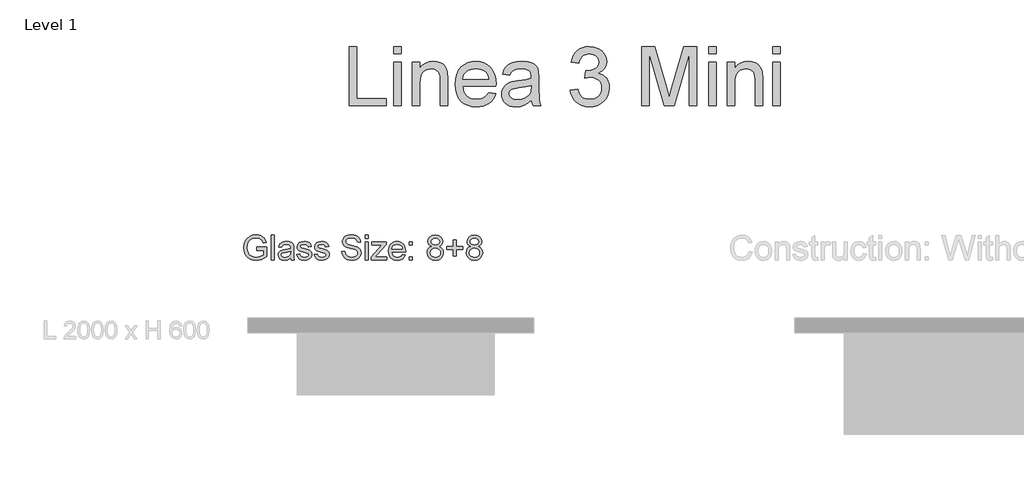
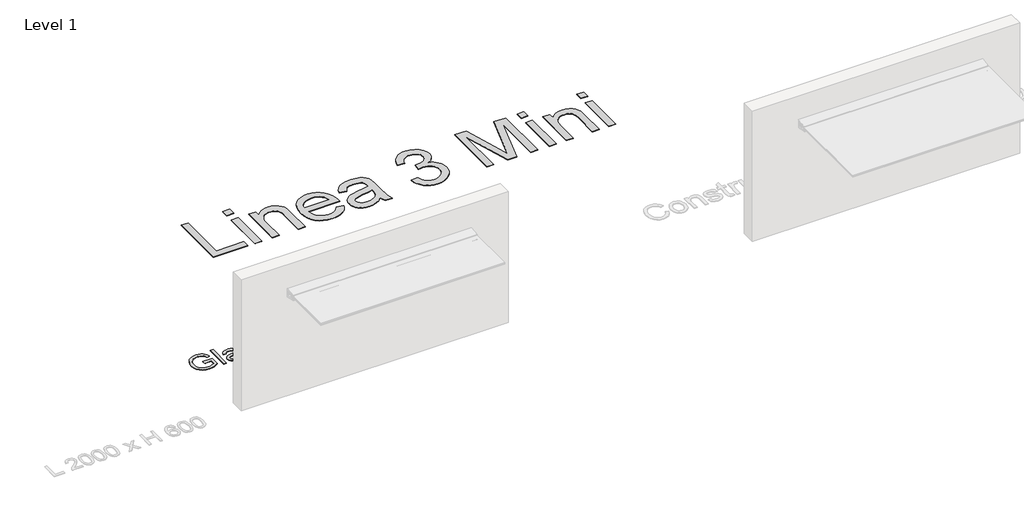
# One storey, part 5 of 6: 2 proxies.
"""IFC4 building model written with IfcOpenShell, lengths in millimetres."""

from ifc_helpers import new_model, si_unit, origin, origin_with_axes, place, context, project, spatial, polyline, outline, extrude, element, save

model = new_model("IFC4")

# Units and contexts
model_context = context("Model", 3, world=origin())
ifc_project = project(units=[si_unit("LENGTHUNIT", "METRE", prefix="MILLI")], contexts=[model_context])

# Site, building, storey
site = spatial("IfcSite", under=ifc_project)
building = spatial("IfcBuilding", under=site)
storey = spatial("IfcBuildingStorey", under=building, Name="Level 1", Elevation=0.0)

# Proxies
placement = place(None, origin())
element("IfcBuildingElementProxy", 1, Name="600mm Arial", ObjectType="600mm Arial", at=placement, inside=storey, context=model_context, shape_type="SweptSolid", body=[
    extrude(outline(polyline([(11563.2291766, 2864.8889799), (11563.2291766, 3467.6268408), (11638.5714092, 3467.6268408), (11638.5714092, 2940.2312125), (11939.9403397, 2940.2312125), (11939.9403397, 2864.8889799), (11563.2291766, 2864.8889799)])), origin_with_axes(), (0.0, 0.0, 1.0), 5.0),
    extrude(outline(polyline([(12015.2825723, 2864.8889799), (12015.2825723, 3307.5245965), (12090.6248049, 3307.5245965), (12090.6248049, 2864.8889799), (12015.2825723, 2864.8889799)])), origin_with_axes(), (0.0, 0.0, 1.0), 5.0),
    extrude(outline(polyline([(12015.2825723, 3392.2846082), (12015.2825723, 3467.6268408), (12090.6248049, 3467.6268408), (12090.6248049, 3392.2846082), (12015.2825723, 3392.2846082)])), origin_with_axes(), (0.0, 0.0, 1.0), 5.0),
    extrude(outline(polyline([(12203.6381538, 2864.8889799), (12203.6381538, 3307.5245965), (12278.9803864, 3307.5245965), (12278.9803864, 3245.7204213), (12305.1551904, 3276.8800263), (12336.5907069, 3299.136887), (12373.2869359, 3312.4910034), (12415.2438774, 3316.9423756), (12452.3815649, 3313.3555261), (12486.3922553, 3302.5949777), (12514.7559571, 3286.0034998), (12534.9526787, 3264.9238614), (12548.656283, 3239.4112451), (12557.5406332, 3209.520833), (12561.5137587, 3136.6801979), (12561.5137587, 2864.8889799), (12486.1715261, 2864.8889799), (12486.1715261, 3126.5266549), (12484.0010223, 3165.4853581), (12477.489511, 3193.1868724), (12465.4781639, 3213.034106), (12446.8081526, 3228.4299675), (12422.8774288, 3238.3075991), (12395.0839441, 3241.6001429), (12372.2062825, 3239.7515359), (12350.9564988, 3234.2057148), (12331.3345929, 3224.9626797), (12313.3405648, 3212.0224305), (12298.3079868, 3193.9134393), (12287.570431, 3169.1641781), (12281.1278976, 3137.7746469), (12278.9803864, 3099.7448456), (12278.9803864, 2864.8889799), (12203.6381538, 2864.8889799)])), origin_with_axes(), (0.0, 0.0, 1.0), 5.0),
    extrude(outline(polyline([(12975.0131213, 2996.737887), (13048.8838259, 2987.3201079), (13037.557659, 2957.7331984), (13022.2675636, 2931.659562), (13003.0135397, 2909.0991987), (12979.7955872, 2890.0521084), (12952.8528296, 2874.9229613), (12922.4243901, 2864.1164277), (12888.5102687, 2857.6325075), (12851.1104653, 2855.4712008), (12804.3618608, 2859.2006045), (12762.7084219, 2870.3888157), (12726.1501486, 2889.0358343), (12694.687041, 2915.1416604), (12669.3859568, 2947.979727), (12651.3137538, 2986.8234672), (12640.4704319, 3031.6728809), (12636.8559913, 3082.5279682), (12640.5072201, 3135.1075024), (12651.4609065, 3181.4514367), (12669.7170506, 3221.5597713), (12695.2756522, 3255.432506), (12726.6559864, 3282.3430739), (12762.3773281, 3301.5649082), (12802.4396774, 3313.0980087), (12846.8430342, 3316.9423756), (12889.8162497, 3313.1072058), (12928.678384, 3301.6016964), (12963.429437, 3282.4258474), (12994.0694087, 3255.5796588), (13019.0807858, 3221.7805005), (13036.9460552, 3181.7457423), (13047.6652168, 3135.4753844), (13051.2382707, 3082.9694266), (13050.7968123, 3062.6623405), (12712.198224, 3062.6623405), (12716.5622241, 3032.5971844), (12725.2396407, 3006.2660306), (12738.2304736, 2983.6688791), (12755.534723, 2964.8057298), (12776.1958955, 2949.9341001), (12799.2574981, 2939.3115075), (12824.7195307, 2932.9379519), (12852.5819933, 2930.8134334), (12892.6811308, 2934.7497708), (12926.4526979, 2946.5587828), (12953.8966948, 2966.9762335), (12975.0131213, 2996.737887)]), holes=[polyline([(12712.198224, 3138.0045731), (12975.8960381, 3138.0045731), (12965.7057068, 3177.809405), (12956.9409183, 3193.4627839), (12945.7297145, 3206.2834714), (12925.1835051, 3221.7345152), (12901.8046043, 3232.7709751), (12875.5930121, 3239.392851), (12846.5487286, 3241.6001429), (12820.0566264, 3239.8389079), (12795.7626192, 3234.5552027), (12773.6667068, 3225.7490275), (12753.7688894, 3213.4203821), (12737.0716454, 3198.1394837), (12724.5774531, 3180.4765494), (12716.2863126, 3160.4315792), (12712.198224, 3138.0045731)])]), origin_with_axes(), (0.0, 0.0, 1.0), 5.0),
    extrude(outline(polyline([(13409.1138756, 2921.3956543), (13373.1166224, 2890.5303549), (13336.0525114, 2870.3336334), (13297.075414, 2859.186809), (13255.3392016, 2855.4712008), (13221.7929622, 2857.7060839), (13192.3761982, 2864.4107333), (13167.0889095, 2875.5851489), (13145.9310963, 2891.2293307), (13129.2246552, 2910.3499974), (13117.2914829, 2931.9538676), (13110.1315796, 2956.0409412), (13107.7449452, 2982.6112183), (13111.3501887, 3013.8443997), (13122.1659194, 3042.2081016), (13138.8493679, 3066.4883132), (13160.0577649, 3085.4710242), (13184.9817701, 3099.818422), (13212.812043, 3110.1926943), (13278.0007325, 3121.5234597), (13355.0352223, 3133.4428364), (13408.6724172, 3147.4223522), (13409.1138756, 3164.1977712), (13403.9267395, 3197.8221855), (13397.4428193, 3210.2749911), (13388.3653311, 3219.8215288), (13372.675164, 3229.3496725), (13353.5636943, 3236.1554894), (13305.0768474, 3241.6001429), (13260.195244, 3237.9765053), (13228.851698, 3227.1055923), (13207.4777541, 3207.0008413), (13192.5049569, 3175.6756894), (13117.1627242, 3185.0934685), (13130.2409292, 3226.2962519), (13149.757069, 3258.6698675), (13177.5321597, 3283.4283258), (13215.387217, 3301.7856374), (13261.685166, 3313.153191), (13314.7889321, 3316.9423756), (13365.7221943, 3313.5946494), (13406.0972433, 3303.5514709), (13436.5394784, 3288.449915), (13457.674299, 3269.9270566), (13471.690603, 3247.0264024), (13480.7772883, 3218.7914592), (13484.4561082, 3152.8670057), (13484.4561082, 3059.1306733), (13488.282081, 2928.2382595), (13493.9474637, 2895.883038), (13503.2916664, 2864.8889799), (13427.9494338, 2864.8889799), (13415.8829043, 2891.0821779), (13409.1138756, 2921.3956543)]), holes=[polyline([(13409.1138756, 3072.0801196), (13358.4933131, 3059.5353435), (13287.5656644, 3048.9771303), (13222.7448569, 3036.763448), (13205.8774674, 3028.4125267), (13193.3878736, 3016.8978203), (13185.6623517, 3003.1022455), (13183.0871778, 2987.9087191), (13188.6973782, 2965.5047056), (13205.5279795, 2947.147394), (13233.2110996, 2934.8969236), (13271.3788566, 2930.8134334), (13311.8458761, 2935.3199879), (13347.604006, 2948.8396512), (13376.5931072, 2968.7604612), (13396.7530406, 2992.4704558), (13405.6925731, 3016.8978203), (13408.6724172, 3050.7429638), (13409.1138756, 3072.0801196)])]), origin_with_axes(), (0.0, 0.0, 1.0), 5.0),
    extrude(outline(polyline([(13804.6605968, 3024.9912242), (13880.0028294, 3034.4090033), (13896.8702189, 2987.0625905), (13908.2423711, 2969.1559344), (13921.5734949, 2955.0936451), (13937.167093, 2944.4710525), (13955.326668, 2936.8834863), (13976.0522199, 2932.3309467), (13999.3437487, 2930.8134334), (14026.6405927, 2932.9011637), (14050.9943808, 2939.1643547), (14072.4051129, 2949.6030063), (14090.8727891, 2964.2171186), (14105.7444187, 2981.9122426), (14116.3670113, 3001.5939293), (14122.7405669, 3023.2621788), (14124.8650854, 3046.9169911), (14122.758961, 3069.4451648), (14116.4405877, 3089.9407904), (14105.9099656, 3108.4038681), (14091.1670947, 3124.8343977), (14073.1776651, 3138.3218713), (14052.9073672, 3147.9557811), (14030.3562009, 3153.7361269), (14005.5241662, 3155.6629089), (13981.7222011, 3153.6027697), (13952.6963117, 3147.4223522), (13961.0840212, 3222.7645848), (13973.1505506, 3221.881668), (14018.2896714, 3227.2895333), (14058.6463263, 3243.5131293), (14075.2561984, 3255.7819939), (14087.1203927, 3270.9571262), (14094.2389093, 3289.0385262), (14096.6117482, 3310.026194), (14094.8918999, 3327.063729), (14089.7323549, 3342.5653565), (14081.1331133, 3356.5310768), (14069.094175, 3368.9608897), (14054.342107, 3379.1650165), (14037.6034762, 3386.4536785), (13998.1665263, 3392.2846082), (13977.5099523, 3390.8130802), (13958.656, 3386.3984962), (13941.6046695, 3379.0408563), (13926.3559608, 3368.7401605), (13913.286953, 3355.4964087), (13902.7747249, 3339.3096009), (13894.8192768, 3320.1797371), (13889.4206085, 3298.1068174), (13814.0783759, 3307.5245965), (13823.0087113, 3343.4942586), (13836.2616602, 3375.1780954), (13853.8372225, 3402.576107), (13875.7353983, 3425.6882933), (13901.2664088, 3444.0364078), (13929.7404752, 3457.1422039), (13961.1575976, 3465.0056816), (13995.5177759, 3467.6268408), (14042.8825828, 3462.4580988), (14086.3846287, 3446.9518727), (14123.0624637, 3422.48772), (14149.9546375, 3390.4451982), (14166.454145, 3353.52824), (14171.9539808, 3314.440778), (14166.7300565, 3278.0204605), (14151.0582835, 3244.9846573), (14125.159391, 3216.8416847), (14089.2541083, 3195.0998588), (14114.3620545, 3187.2455782), (14136.4165801, 3176.0435714), (14155.4176851, 3161.4938385), (14171.3653696, 3143.5963794), (14183.9837221, 3122.7926526), (14192.9968309, 3099.5241164), (14198.4046963, 3073.7907708), (14200.207318, 3045.5926159), (14196.6020745, 3007.3696766), (14185.7863438, 2972.1633697), (14167.7601261, 2939.9736951), (14142.5234212, 2910.8006529), (14111.7776835, 2886.5940176), (14077.2243671, 2869.3035638), (14038.863472, 2858.9292916), (13996.6949983, 2855.4712008), (13958.5824236, 2858.4234538), (13923.8543633, 2867.2802129), (13892.5108173, 2882.0414779), (13864.5517856, 2902.707249), (13841.1085055, 2928.0635155), (13823.312214, 2956.8962669), (13811.1629111, 2989.2055031), (13804.6605968, 3024.9912242)])), origin_with_axes(), (0.0, 0.0, 1.0), 5.0),
    extrude(outline(polyline([(14529.8295857, 2864.8889799), (14529.8295857, 3467.6268408), (14659.0297424, 3467.6268408), (14782.6380928, 3042.7967128), (14807.6540685, 2954.0635755), (14834.5830305, 3050.1543527), (14955.8369361, 3467.6268408), (15085.4785512, 3467.6268408), (15085.4785512, 2864.8889799), (15010.1363186, 2864.8889799), (15010.1363186, 3392.2846082), (14858.7160894, 2864.8889799), (14756.7392003, 2864.8889799), (14605.1718183, 3392.2846082), (14605.1718183, 2864.8889799), (14529.8295857, 2864.8889799)])), origin_with_axes(), (0.0, 0.0, 1.0), 5.0),
    extrude(outline(polyline([(15207.9096792, 3392.2846082), (15207.9096792, 3467.6268408), (15283.2519118, 3467.6268408), (15283.2519118, 3392.2846082), (15207.9096792, 3392.2846082)])), origin_with_axes(), (0.0, 0.0, 1.0), 5.0),
    extrude(outline(polyline([(15207.9096792, 2864.8889799), (15207.9096792, 3307.5245965), (15283.2519118, 3307.5245965), (15283.2519118, 2864.8889799), (15207.9096792, 2864.8889799)])), origin_with_axes(), (0.0, 0.0, 1.0), 5.0),
    extrude(outline(polyline([(15396.2652608, 2864.8889799), (15396.2652608, 3307.5245965), (15471.6074934, 3307.5245965), (15471.6074934, 3245.7204213), (15497.7822973, 3276.8800263), (15529.2178138, 3299.136887), (15565.9140428, 3312.4910034), (15607.8709844, 3316.9423756), (15645.0086718, 3313.3555261), (15679.0193623, 3302.5949777), (15707.3830641, 3286.0034998), (15727.5797856, 3264.9238614), (15741.2833899, 3239.4112451), (15750.1677401, 3209.520833), (15754.1408657, 3136.6801979), (15754.1408657, 2864.8889799), (15678.7986331, 2864.8889799), (15678.7986331, 3126.5266549), (15676.6281293, 3165.4853581), (15670.116618, 3193.1868724), (15658.1052708, 3213.034106), (15639.4352596, 3228.4299675), (15615.5045358, 3238.3075991), (15587.7110511, 3241.6001429), (15564.8333895, 3239.7515359), (15543.5836057, 3234.2057148), (15523.9616998, 3224.9626797), (15505.9676717, 3212.0224305), (15490.9350937, 3193.9134393), (15480.197538, 3169.1641781), (15473.7550045, 3137.7746469), (15471.6074934, 3099.7448456), (15471.6074934, 2864.8889799), (15396.2652608, 2864.8889799)])), origin_with_axes(), (0.0, 0.0, 1.0), 5.0),
    extrude(outline(polyline([(15857.7364355, 3392.2846082), (15857.7364355, 3467.6268408), (15933.0786681, 3467.6268408), (15933.0786681, 3392.2846082), (15857.7364355, 3392.2846082)])), origin_with_axes(), (0.0, 0.0, 1.0), 5.0),
    extrude(outline(polyline([(15857.7364355, 2864.8889799), (15857.7364355, 3307.5245965), (15933.0786681, 3307.5245965), (15933.0786681, 2864.8889799), (15857.7364355, 2864.8889799)])), origin_with_axes(), (0.0, 0.0, 1.0), 5.0),
])
element("IfcBuildingElementProxy", 2, Name="600mm Arial 2", ObjectType="600mm Arial 2", at=placement, inside=storey, context=model_context, shape_type="SweptSolid", body=[
    extrude(outline(polyline([(10622.5294323, 1398.8329866), (10622.5294323, 1430.2255835), (10724.5553723, 1430.2255835), (10724.5553723, 1336.3543611), (10699.7616587, 1319.1098925), (10674.1861958, 1306.7398605), (10647.8902973, 1299.2902501), (10620.935277, 1296.8070466), (10585.7182402, 1300.7541138), (10553.8887834, 1312.5953155), (10527.447265, 1331.9167845), (10508.3940433, 1358.3046534), (10496.8747383, 1389.9578334), (10493.03497, 1425.0752356), (10496.8594099, 1460.4455566), (10508.3327296, 1493.3480025), (10526.9797483, 1520.9468164), (10552.3252849, 1540.4062411), (10583.1967156, 1551.9485387), (10618.4214167, 1555.7959712), (10644.2804553, 1553.5656866), (10667.533663, 1546.8748328), (10687.1157151, 1536.2062549), (10701.9612864, 1522.0427981), (10712.9440968, 1503.7023478), (10720.937866, 1480.5027895), (10691.9978157, 1472.3480719), (10677.6810747, 1501.3800927), (10667.2884084, 1510.7917404), (10653.2169221, 1518.1187235), (10636.4399702, 1522.8322116), (10617.9309074, 1524.4033743), (10596.2641907, 1522.7095842), (10577.7397994, 1517.6282142), (10562.4267113, 1509.7953934), (10550.3939044, 1499.8472511), (10534.2377535, 1475.6590099), (10526.8801136, 1451.961278), (10524.4275669, 1426.3628226), (10527.3782871, 1396.3421189), (10536.2304476, 1371.6403758), (10550.7158012, 1352.4338699), (10570.5661005, 1338.8988782), (10593.7963156, 1330.8744522), (10618.4214167, 1328.1996435), (10640.1647754, 1330.2153303), (10661.3716396, 1336.2623906), (10693.1627754, 1353.4608738), (10693.1627754, 1398.8329866), (10622.5294323, 1398.8329866)])), origin_with_axes(), (0.0, 0.0, 1.0), 5.0),
    extrude(outline(polyline([(10771.6442677, 1300.7311212), (10771.6442677, 1551.8718966), (10803.0368646, 1551.8718966), (10803.0368646, 1300.7311212), (10771.6442677, 1300.7311212)])), origin_with_axes(), (0.0, 0.0, 1.0), 5.0),
    extrude(outline(polyline([(10967.8479984, 1324.2755689), (10952.8491429, 1311.4150275), (10937.4057633, 1302.9997268), (10921.1653061, 1298.3552166), (10903.7752176, 1296.8070466), (10877.5406328, 1300.5318518), (10858.188507, 1311.7062674), (10846.2553348, 1328.6748244), (10842.2776108, 1349.7820539), (10843.7797956, 1362.7958795), (10848.28635, 1374.6140886), (10864.074619, 1392.6403063), (10886.0555682, 1402.9410022), (10913.2175222, 1407.6621545), (10967.6640574, 1418.4533597), (10967.8479984, 1425.4431176), (10965.6866917, 1439.4532902), (10959.2027716, 1448.6196833), (10944.7020896, 1455.4255002), (10924.4992367, 1457.6941058), (10905.7985686, 1456.1842568), (10892.7387578, 1451.6547097), (10883.8329478, 1443.2777301), (10877.5942823, 1430.2255835), (10846.2016854, 1434.1496581), (10851.6509374, 1451.3174846), (10859.7826624, 1464.806491), (10871.3556168, 1475.1225153), (10887.1285573, 1482.7713951), (10906.4193695, 1487.5078758), (10928.5459386, 1489.0867027), (10949.7681312, 1487.6918168), (10966.5910683, 1483.5071591), (10979.2753329, 1477.2148442), (10988.0815082, 1469.4969865), (10997.7077537, 1448.1904876), (10999.2405954, 1420.7219653), (10999.2405954, 1381.6651601), (11000.8347507, 1327.1266544), (11007.0887446, 1300.7311212), (10975.6961477, 1300.7311212), (10967.8479984, 1324.2755689)]), holes=[polyline([(10967.8479984, 1387.0607627), (10917.2029104, 1377.4345172), (10890.1942406, 1372.3454829), (10877.9621643, 1364.068138), (10873.6702077, 1351.9893459), (10876.0077912, 1342.6543402), (10883.0205417, 1335.0054604), (10894.5551751, 1329.9010977), (10910.4584072, 1328.1996435), (10927.3196653, 1330.0773745), (10942.2188861, 1335.7105676), (10954.2976783, 1344.0109051), (10962.6976505, 1353.8900695), (10966.4224557, 1364.068138), (10967.6640574, 1378.1702812), (10967.8479984, 1387.0607627)])]), origin_with_axes(), (0.0, 0.0, 1.0), 5.0),
    extrude(outline(polyline([(11030.6331923, 1355.6681658), (11062.0257892, 1359.5922404), (11066.9768677, 1346.1645476), (11076.557128, 1336.2930474), (11090.8278837, 1330.2229945), (11109.8504486, 1328.1996435), (11128.6430872, 1330.0543819), (11141.8561822, 1335.6185971), (11149.6736746, 1343.6813441), (11152.2795054, 1353.0316782), (11149.6583461, 1361.0331116), (11141.7948685, 1367.1338213), (11109.4825666, 1376.0856165), (11062.2097302, 1391.4446898), (11050.2459012, 1399.1625475), (11041.5776816, 1409.3789371), (11036.3123706, 1421.4424009), (11034.5572669, 1434.7014811), (11040.1981242, 1458.0926446), (11055.5878543, 1475.9655782), (11075.5454525, 1485.2545986), (11102.5541223, 1489.0867027), (11122.9869015, 1487.5461969), (11140.7525362, 1482.9246793), (11155.0386203, 1475.6743383), (11165.0327479, 1466.2473622), (11171.6546238, 1453.946308), (11175.823953, 1438.0737327), (11144.4313561, 1434.1496581), (11140.4689605, 1444.0288225), (11132.6284754, 1451.4707687), (11120.833259, 1456.1382715), (11105.006669, 1457.6941058), (11086.9804512, 1456.2072494), (11074.9629727, 1451.7466802), (11068.203141, 1445.3087453), (11065.9498638, 1437.8897917), (11069.6899974, 1428.7540555), (11081.4009076, 1421.8256113), (11108.4402343, 1415.1424217), (11154.5174542, 1400.3658282), (11166.6882168, 1393.2994282), (11175.9159235, 1383.6271974), (11181.7330576, 1371.318479), (11183.6721023, 1356.3426161), (11181.3958324, 1340.8609155), (11174.5670229, 1326.2989199), (11163.4462567, 1313.7985962), (11148.2941171, 1304.5019116), (11129.9919878, 1298.7307629), (11109.4212529, 1296.8070466), (11077.7680729, 1300.5165234), (11054.6681493, 1311.6449537), (11039.2477623, 1330.0697103), (11030.6331923, 1355.6681658)])), origin_with_axes(), (0.0, 0.0, 1.0), 5.0),
    extrude(outline(polyline([(11207.21655, 1355.6681658), (11238.6091469, 1359.5922404), (11243.5602254, 1346.1645476), (11253.1404857, 1336.2930474), (11267.4112414, 1330.2229945), (11286.4338063, 1328.1996435), (11305.2264448, 1330.0543819), (11318.4395398, 1335.6185971), (11326.2570322, 1343.6813441), (11328.862863, 1353.0316782), (11326.2417038, 1361.0331116), (11318.3782262, 1367.1338213), (11286.0659243, 1376.0856165), (11238.7930879, 1391.4446898), (11226.8292588, 1399.1625475), (11218.1610393, 1409.3789371), (11212.8957283, 1421.4424009), (11211.1406246, 1434.7014811), (11216.7814818, 1458.0926446), (11232.171212, 1475.9655782), (11252.1288102, 1485.2545986), (11279.13748, 1489.0867027), (11299.5702592, 1487.5461969), (11317.3358939, 1482.9246793), (11331.621978, 1475.6743383), (11341.6161055, 1466.2473622), (11348.2379815, 1453.946308), (11352.4073107, 1438.0737327), (11321.0147138, 1434.1496581), (11317.0523182, 1444.0288225), (11309.2118331, 1451.4707687), (11297.4166167, 1456.1382715), (11281.5900267, 1457.6941058), (11263.5638089, 1456.2072494), (11251.5463304, 1451.7466802), (11244.7864987, 1445.3087453), (11242.5332215, 1437.8897917), (11246.2733551, 1428.7540555), (11257.9842653, 1421.8256113), (11285.0235919, 1415.1424217), (11331.1008118, 1400.3658282), (11343.2715745, 1393.2994282), (11352.4992812, 1383.6271974), (11358.3164153, 1371.318479), (11360.25546, 1356.3426161), (11357.9791901, 1340.8609155), (11351.1503806, 1326.2989199), (11340.0296144, 1313.7985962), (11324.8774748, 1304.5019116), (11306.5753455, 1298.7307629), (11286.0046106, 1296.8070466), (11254.3514306, 1300.5165234), (11231.251507, 1311.6449537), (11215.83112, 1330.0697103), (11207.21655, 1355.6681658)])), origin_with_axes(), (0.0, 0.0, 1.0), 5.0),
    extrude(outline(polyline([(11485.8258476, 1387.0607627), (11517.2184446, 1387.0607627), (11520.8206224, 1369.6400174), (11527.3351994, 1355.637509), (11537.4979396, 1344.524407), (11552.0446068, 1335.7718812), (11569.8255699, 1330.0927029), (11589.6911976, 1328.1996435), (11607.1809208, 1329.6328504), (11622.4940089, 1333.9324713), (11634.902362, 1340.7382882), (11643.6778804, 1349.6900834), (11648.8972062, 1359.9677866), (11650.6369815, 1370.7513276), (11645.4253199, 1390.3410439), (11637.4852002, 1398.0895584), (11624.0881642, 1404.5964712), (11578.3788263, 1416.5832928), (11529.1746094, 1432.0649935), (11513.5472888, 1442.6262724), (11502.4725079, 1455.4255002), (11495.8736246, 1470.1867652), (11493.6739969, 1486.6341561), (11496.3947908, 1505.0205916), (11504.5571726, 1522.1654255), (11517.9465444, 1536.6967643), (11536.3483083, 1547.2427148), (11558.4365564, 1553.6576571), (11582.8853807, 1555.7959712), (11609.3728844, 1553.5580224), (11632.5494501, 1546.844176), (11651.5873433, 1535.7923877), (11665.6588296, 1520.5406133), (11674.5646396, 1502.0392146), (11678.1055038, 1481.2385535), (11646.7129069, 1481.2385535), (11640.9494223, 1499.9698784), (11628.9319438, 1513.4895417), (11610.1546336, 1521.6749161), (11584.111654, 1524.4033743), (11557.4555378, 1521.705573), (11539.1687369, 1513.6121691), (11528.5921296, 1501.7019895), (11525.0665938, 1487.5538611), (11527.5651257, 1475.4903973), (11535.0607213, 1465.7875097), (11552.7803708, 1457.111626), (11586.318946, 1448.2518013), (11641.8691273, 1432.4941891), (11659.7650535, 1421.1051757), (11672.2500487, 1407.0490178), (11679.584696, 1390.4789996), (11682.0295784, 1371.5484053), (11679.216814, 1352.1962795), (11670.7785207, 1333.9937849), (11657.059588, 1318.3281433), (11638.4049051, 1306.5865763), (11615.9717676, 1299.251929), (11590.9174709, 1296.8070466), (11560.1610033, 1299.4435342), (11534.8461235, 1307.3529971), (11514.6815916, 1320.5660921), (11499.3761678, 1339.113476), (11489.5506528, 1361.7075619), (11485.8258476, 1387.0607627)])), origin_with_axes(), (0.0, 0.0, 1.0), 5.0),
    extrude(outline(polyline([(11725.1943992, 1520.4792997), (11725.1943992, 1551.8718966), (11756.5869961, 1551.8718966), (11756.5869961, 1520.4792997), (11725.1943992, 1520.4792997)])), origin_with_axes(), (0.0, 0.0, 1.0), 5.0),
    extrude(outline(polyline([(11725.1943992, 1300.7311212), (11725.1943992, 1485.1626281), (11756.5869961, 1485.1626281), (11756.5869961, 1300.7311212), (11725.1943992, 1300.7311212)])), origin_with_axes(), (0.0, 0.0, 1.0), 5.0),
    extrude(outline(polyline([(11784.0555184, 1300.7311212), (11784.0555184, 1330.2843081), (11892.396766, 1453.7700312), (11860.3297187, 1453.7700312), (11791.9036676, 1453.7700312), (11791.9036676, 1485.1626281), (11937.0944284, 1485.1626281), (11937.0944284, 1458.4911835), (11841.015914, 1348.9236626), (11826.3006342, 1332.1237181), (11862.5983244, 1332.1237181), (11941.018503, 1332.1237181), (11941.018503, 1300.7311212), (11784.0555184, 1300.7311212)])), origin_with_axes(), (0.0, 0.0, 1.0), 5.0),
    extrude(outline(polyline([(12101.5376802, 1355.6681658), (12132.3171405, 1351.7440912), (12121.2270312, 1328.5521971), (12103.5303744, 1311.2157581), (12079.6257089, 1300.4092245), (12049.9115736, 1296.8070466), (12030.4329884, 1298.3609648), (12013.0773888, 1303.0227195), (11997.844775, 1310.7923106), (11984.7351468, 1321.6697381), (11974.1930283, 1335.3522658), (11966.6629438, 1351.5371576), (11962.144893, 1370.2244133), (11960.6388761, 1391.414033), (11962.1602214, 1413.3221722), (11966.7242574, 1432.6321449), (11974.3309841, 1449.3439509), (11984.9804014, 1463.4575904), (11998.0555407, 1474.670327), (12012.9394331, 1482.6794246), (12029.6320786, 1487.4848832), (12048.1334773, 1489.0867027), (12066.0389838, 1487.4887153), (12082.2315397, 1482.6947531), (12096.7111451, 1474.704816), (12109.4778, 1463.5189041), (12119.8992071, 1449.4359214), (12127.3430694, 1432.7547722), (12131.8093867, 1413.4754564), (12133.2981592, 1391.597974), (12133.1142182, 1383.1366881), (11992.031473, 1383.1366881), (11997.4653966, 1359.6382257), (12010.0883476, 1342.3631003), (12028.3061706, 1331.7405077), (12050.5247102, 1328.1996435), (12067.2326842, 1329.8397841), (12081.3041705, 1334.7602058), (12092.7391692, 1343.2674769), (12101.5376802, 1355.6681658)]), holes=[polyline([(11992.031473, 1414.529285), (12101.9055622, 1414.529285), (12097.6595909, 1431.1146317), (12089.3362607, 1442.978826), (12071.0341315, 1454.0152859), (12048.0108499, 1457.6941058), (12026.849971, 1454.7587141), (12009.3525836, 1445.9525388), (11997.1894852, 1432.2259418), (11992.031473, 1414.529285)])]), origin_with_axes(), (0.0, 0.0, 1.0), 5.0),
    extrude(outline(polyline([(12172.5389053, 1453.7700312), (12172.5389053, 1485.1626281), (12203.9315022, 1485.1626281), (12203.9315022, 1453.7700312), (12172.5389053, 1453.7700312)])), origin_with_axes(), (0.0, 0.0, 1.0), 5.0),
    extrude(outline(polyline([(12172.5389053, 1300.7311212), (12172.5389053, 1332.1237181), (12203.9315022, 1332.1237181), (12203.9315022, 1300.7311212), (12172.5389053, 1300.7311212)])), origin_with_axes(), (0.0, 0.0, 1.0), 5.0),
    extrude(outline(polyline([(12398.7863323, 1439.0547514), (12381.9787237, 1447.3320963), (12370.1835072, 1458.5524971), (12363.2167419, 1472.4860277), (12360.8944868, 1488.9027617), (12365.9528643, 1513.4435565), (12381.1279966, 1533.7230515), (12404.7184295, 1547.3346853), (12435.0227089, 1551.8718966), (12465.5109292, 1547.2273864), (12489.4079305, 1533.2938558), (12504.8589743, 1512.6924641), (12510.0093222, 1488.0443704), (12507.717724, 1472.1564667), (12500.8429292, 1458.4605266), (12489.3082958, 1447.3091037), (12473.0371817, 1439.0547514), (12492.3586507, 1429.0989449), (12506.4224728, 1414.4373145), (12514.9987218, 1395.7749675), (12517.8574715, 1373.8170109), (12512.1859574, 1343.8039715), (12495.1714151, 1319.0025936), (12482.9316745, 1309.2920418), (12468.8985093, 1302.3559333), (12435.4519045, 1296.8070466), (12402.0052998, 1302.378926), (12387.9721345, 1309.3437752), (12375.732394, 1319.0945641), (12358.7178517, 1344.1335324), (12353.0463376, 1374.6754022), (12356.0200504, 1397.4840859), (12364.9411888, 1416.2460677), (12379.3499003, 1430.317554), (12398.7863323, 1439.0547514)]), holes=[polyline([(12392.2870838, 1487.9830567), (12395.0691914, 1474.2794524), (12403.4155141, 1463.3349631), (12417.0807974, 1456.1612642), (12435.8197865, 1453.7700312), (12454.1219158, 1456.1459357), (12467.5802654, 1463.2736494), (12475.8576103, 1473.8502568), (12478.6167253, 1486.5728424), (12475.7656398, 1499.7782732), (12467.2123834, 1510.6997699), (12453.5700928, 1518.0344172), (12435.4519045, 1520.4792997), (12417.2187531, 1518.0880667), (12403.5994551, 1510.9143678), (12395.1151766, 1500.3990741), (12392.2870838, 1487.9830567)]), polyline([(12384.4389345, 1375.7790482), (12389.681253, 1352.14263), (12396.9392582, 1342.0028825), (12408.2286369, 1334.4536374), (12435.6971592, 1328.1996435), (12457.0649717, 1331.4875888), (12473.0984954, 1341.3514248), (12483.1232797, 1356.2889667), (12486.4648745, 1374.7980296), (12483.0159808, 1393.621325), (12472.6692997, 1408.8884278), (12456.2678941, 1419.0051826), (12434.6548269, 1422.3774343), (12413.5859184, 1419.0511679), (12397.7133432, 1409.0723688), (12387.7575367, 1394.0965059), (12384.4389345, 1375.7790482)])]), origin_with_axes(), (0.0, 0.0, 1.0), 5.0),
    extrude(outline(polyline([(12615.9593368, 1339.9718674), (12615.9593368, 1406.6811358), (12549.2500684, 1406.6811358), (12549.2500684, 1438.0737327), (12615.9593368, 1438.0737327), (12615.9593368, 1504.7830012), (12647.3519338, 1504.7830012), (12647.3519338, 1438.0737327), (12714.0612022, 1438.0737327), (12714.0612022, 1406.6811358), (12647.3519338, 1406.6811358), (12647.3519338, 1339.9718674), (12615.9593368, 1339.9718674)])), origin_with_axes(), (0.0, 0.0, 1.0), 5.0),
    extrude(outline(polyline([(12795.1178685, 1439.0547514), (12778.3102598, 1447.3320963), (12766.5150434, 1458.5524971), (12759.5482781, 1472.4860277), (12757.226023, 1488.9027617), (12762.2844004, 1513.4435565), (12777.4595327, 1533.7230515), (12801.0499657, 1547.3346853), (12831.354245, 1551.8718966), (12861.8424654, 1547.2273864), (12885.7394666, 1533.2938558), (12901.1905104, 1512.6924641), (12906.3408584, 1488.0443704), (12904.0492601, 1472.1564667), (12897.1744653, 1458.4605266), (12885.6398319, 1447.3091037), (12869.3687178, 1439.0547514), (12888.6901868, 1429.0989449), (12902.7540089, 1414.4373145), (12911.3302579, 1395.7749675), (12914.1890076, 1373.8170109), (12908.5174935, 1343.8039715), (12891.5029512, 1319.0025936), (12879.2632107, 1309.2920418), (12865.2300454, 1302.3559333), (12831.7834407, 1296.8070466), (12798.3368359, 1302.378926), (12784.3036707, 1309.3437752), (12772.0639301, 1319.0945641), (12755.0493878, 1344.1335324), (12749.3778737, 1374.6754022), (12752.3515865, 1397.4840859), (12761.2727249, 1416.2460677), (12775.6814364, 1430.317554), (12795.1178685, 1439.0547514)]), holes=[polyline([(12788.6186199, 1487.9830567), (12791.4007275, 1474.2794524), (12799.7470503, 1463.3349631), (12813.4123335, 1456.1612642), (12832.1513227, 1453.7700312), (12850.4534519, 1456.1459357), (12863.9118016, 1463.2736494), (12872.1891465, 1473.8502568), (12874.9482614, 1486.5728424), (12872.097176, 1499.7782732), (12863.5439196, 1510.6997699), (12849.9016289, 1518.0344172), (12831.7834407, 1520.4792997), (12813.5502893, 1518.0880667), (12799.9309913, 1510.9143678), (12791.4467127, 1500.3990741), (12788.6186199, 1487.9830567)]), polyline([(12780.7704707, 1375.7790482), (12786.0127891, 1352.14263), (12793.2707943, 1342.0028825), (12804.560173, 1334.4536374), (12832.0286953, 1328.1996435), (12853.3965079, 1331.4875888), (12869.4300315, 1341.3514248), (12879.4548159, 1356.2889667), (12882.7964107, 1374.7980296), (12879.347517, 1393.621325), (12869.0008358, 1408.8884278), (12852.5994302, 1419.0051826), (12830.986363, 1422.3774343), (12809.9174546, 1419.0511679), (12794.0448793, 1409.0723688), (12784.0890728, 1394.0965059), (12780.7704707, 1375.7790482)])]), origin_with_axes(), (0.0, 0.0, 1.0), 5.0),
])

save(model, "model.ifc")
